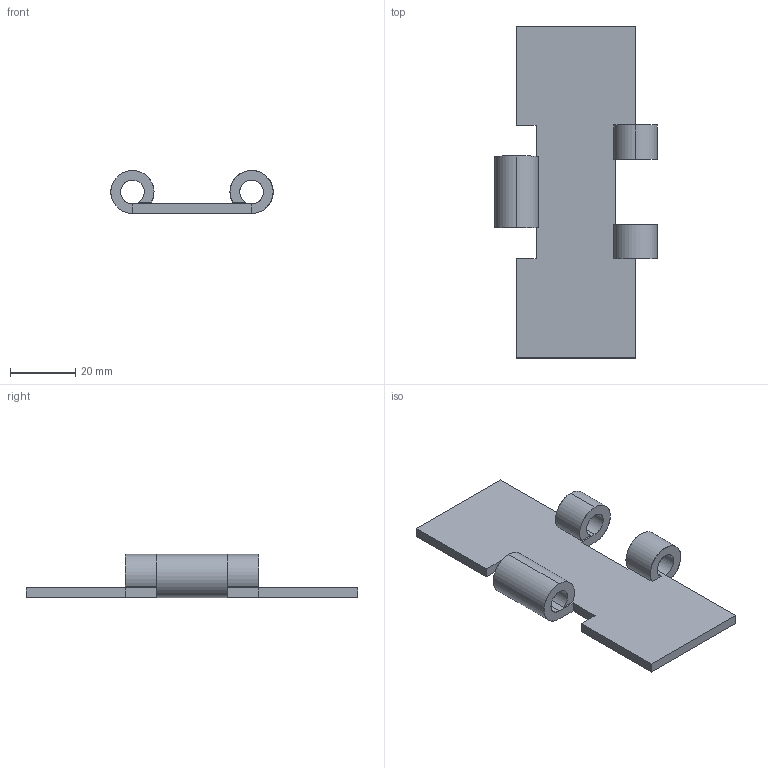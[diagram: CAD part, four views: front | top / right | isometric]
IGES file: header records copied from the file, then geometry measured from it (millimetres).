
Start section: SolidWorks IGES file using analytic representation for surfaces
Global section: file name: C:\Documents and Settings\URETIM3\Desktop\yeni katalog tolgay düzenli\D kataloðu\815 düzgün doðrusal paslanmz bantlar\815 304 101.IGS; native system: SolidWorks 2006 by SolidWorks Corporation; preprocessor: SolidWorks 2006 by SolidWorks Corporation; author: URETIM3; date: 060912.121154; units: millimetre
Bounding box: 49.65 x 101.6 x 13.2 mm (x, y, z)
Surface area: 10777.3 mm2 (no closed solid volume)
Topology: 0 solids, 0 shells, 32 faces, 536 edges, 536 vertices
Faces by surface type: bspline 22, revolution 10
